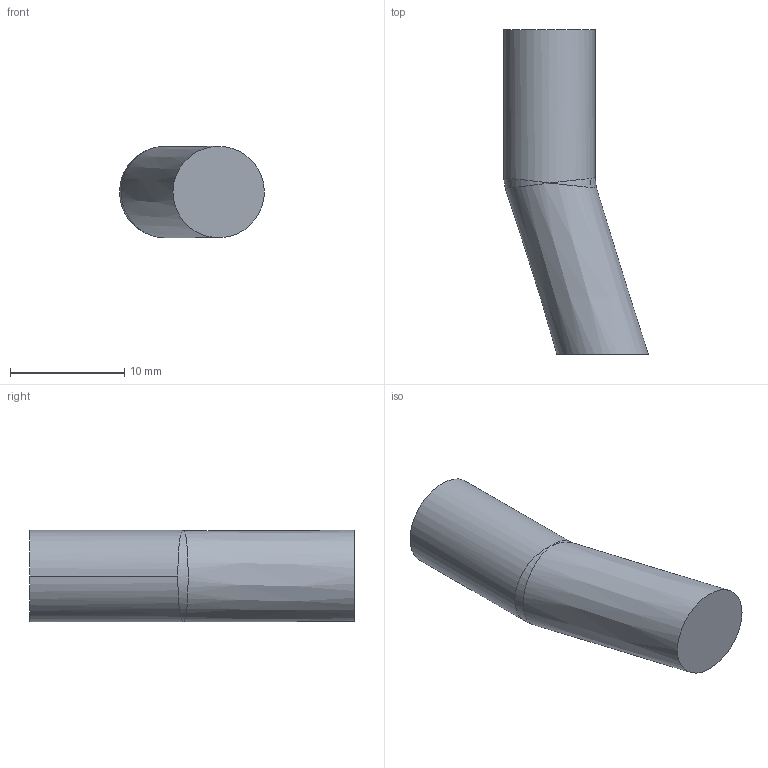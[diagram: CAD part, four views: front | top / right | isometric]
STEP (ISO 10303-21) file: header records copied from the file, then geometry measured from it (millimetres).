
FILE_DESCRIPTION(('STEP AP214'),'1');
FILE_NAME('problem1.stp','2020-07-21T06:58:54',(' '),(' '),'Spatial InterOp 3D',' ',' ');
FILE_SCHEMA(('AUTOMOTIVE_DESIGN { 1 0 10303 214 1 1 1 1 }'));
Length unit declared in the file: millimetre
Products named in the file (1): 实体
Bounding box: 12.67 x 28.44 x 8 mm (x, y, z)
Volume: 1428.5 mm3; surface area: 823.9 mm2
Topology: 1 solids, 1 shells, 7 faces, 18 edges, 9 vertices
Faces by surface type: bspline 3, cylinder 2, plane 2
Entity records: 1927 total; most frequent: CARTESIAN_POINT 1781, ORIENTED_EDGE 24, DIRECTION 20, EDGE_CURVE 12, AXIS2_PLACEMENT_3D 9, EDGE_LOOP 8, VERTEX_POINT 8, ADVANCED_FACE 7
